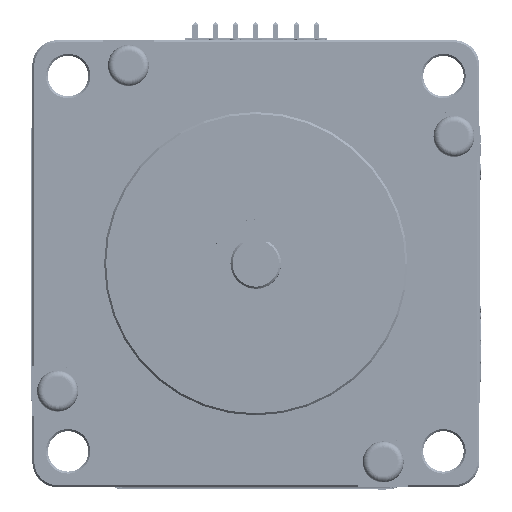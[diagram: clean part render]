
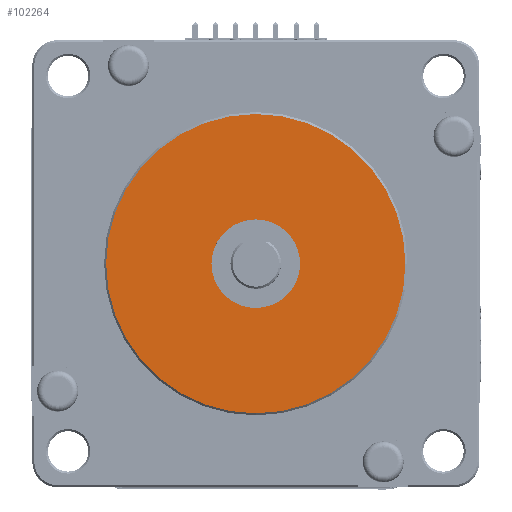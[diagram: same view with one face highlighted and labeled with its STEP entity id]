
A CAD part, top view. The second image highlights one B-rep face of the part: STEP entity #102264.
In plain terms, the highlighted planar face has unit normal (0, 0, 1).
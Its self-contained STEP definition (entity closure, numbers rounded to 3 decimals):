
#141 = DIRECTION ( 'NONE',  ( 1., 0., 0. ) ) ;
#567 = AXIS2_PLACEMENT_3D ( 'NONE', #150062, #74818, #162634 ) ;
#1178 = PLANE ( 'NONE',  #145675 ) ;
#2341 = EDGE_CURVE ( 'NONE', #6803, #84141, #82591, .T. ) ;
#5198 = CARTESIAN_POINT ( 'NONE',  ( -5.563, 0., 1.524 ) ) ;
#6803 = VERTEX_POINT ( 'NONE', #161417 ) ;
#25283 = DIRECTION ( 'NONE',  ( 0., 0., 1. ) ) ;
#27986 = CIRCLE ( 'NONE', #57342, 18.796 ) ;
#29193 = FACE_OUTER_BOUND ( 'NONE', #92617, .T. ) ;
#29549 = CIRCLE ( 'NONE', #567, 5.563 ) ;
#33038 = ORIENTED_EDGE ( 'NONE', *, *, #160292, .T. ) ;
#37449 = EDGE_CURVE ( 'NONE', #140767, #143443, #61863, .T. ) ;
#44827 = DIRECTION ( 'NONE',  ( 0., 0., 1. ) ) ;
#57342 = AXIS2_PLACEMENT_3D ( 'NONE', #120090, #44827, #132666 ) ;
#61863 = CIRCLE ( 'NONE', #63385, 18.796 ) ;
#63385 = AXIS2_PLACEMENT_3D ( 'NONE', #150416, #75188, #141 ) ;
#64072 = ORIENTED_EDGE ( 'NONE', *, *, #2341, .F. ) ;
#64163 = DIRECTION ( 'NONE',  ( 0., 0., 1. ) ) ;
#67913 = ORIENTED_EDGE ( 'NONE', *, *, #118469, .F. ) ;
#74818 = DIRECTION ( 'NONE',  ( 0., 0., 1. ) ) ;
#75188 = DIRECTION ( 'NONE',  ( 0., 0., 1. ) ) ;
#82591 = CIRCLE ( 'NONE', #153382, 5.563 ) ;
#84141 = VERTEX_POINT ( 'NONE', #5198 ) ;
#91094 = ORIENTED_EDGE ( 'NONE', *, *, #37449, .T. ) ;
#92617 = EDGE_LOOP ( 'NONE', ( #91094, #33038 ) ) ;
#100352 = CARTESIAN_POINT ( 'NONE',  ( 0., 0., 1.524 ) ) ;
#102264 = ADVANCED_FACE ( 'NONE', ( #29193, #129283 ), #1178, .T. ) ;
#113058 = DIRECTION ( 'NONE',  ( 1., 0., 0. ) ) ;
#118469 = EDGE_CURVE ( 'NONE', #84141, #6803, #29549, .T. ) ;
#120090 = CARTESIAN_POINT ( 'NONE',  ( 0., 0., 1.524 ) ) ;
#125460 = EDGE_LOOP ( 'NONE', ( #67913, #64072 ) ) ;
#129283 = FACE_BOUND ( 'NONE', #125460, .T. ) ;
#132666 = DIRECTION ( 'NONE',  ( 1., 0., 0. ) ) ;
#139382 = CARTESIAN_POINT ( 'NONE',  ( 0., 0., 1.524 ) ) ;
#140767 = VERTEX_POINT ( 'NONE', #162180 ) ;
#143443 = VERTEX_POINT ( 'NONE', #152042 ) ;
#145675 = AXIS2_PLACEMENT_3D ( 'NONE', #139382, #64163, #152016 ) ;
#150062 = CARTESIAN_POINT ( 'NONE',  ( 0., 0., 1.524 ) ) ;
#150416 = CARTESIAN_POINT ( 'NONE',  ( 0., 0., 1.524 ) ) ;
#152016 = DIRECTION ( 'NONE',  ( 1., 0., 0. ) ) ;
#152042 = CARTESIAN_POINT ( 'NONE',  ( 18.796, 0., 1.524 ) ) ;
#153382 = AXIS2_PLACEMENT_3D ( 'NONE', #100352, #25283, #113058 ) ;
#160292 = EDGE_CURVE ( 'NONE', #143443, #140767, #27986, .T. ) ;
#161417 = CARTESIAN_POINT ( 'NONE',  ( 5.563, 0., 1.524 ) ) ;
#162180 = CARTESIAN_POINT ( 'NONE',  ( -18.796, 0., 1.524 ) ) ;
#162634 = DIRECTION ( 'NONE',  ( 1., 0., 0. ) ) ;
